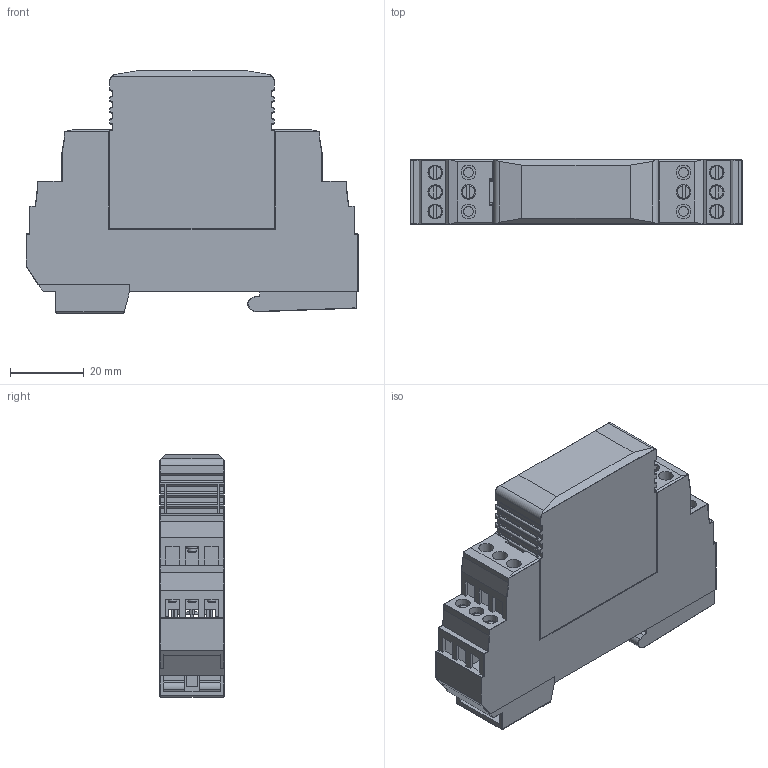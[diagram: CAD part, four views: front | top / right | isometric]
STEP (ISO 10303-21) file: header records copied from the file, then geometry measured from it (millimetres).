
FILE_DESCRIPTION(/* description */ (''),/* implementation_level */ '2;1');
FILE_NAME(/* name */ 'K:\PROJEKTY ROZPRACOVANÉ\MODELY DO KATALOGU\HDT\HDT1.stp',/* time_stamp */ '2019-11-20T11:49:27+01:00',/* author */ ('Jiri Valtr'),/* organization */ (''),/* preprocessor_version */ 'ST-DEVELOPER v18',/* originating_system */ 'Autodesk Inventor 2020',/* authorisation */ '');
FILE_SCHEMA (('AUTOMOTIVE_DESIGN { 1 0 10303 214 3 1 1 }'));
Length unit declared in the file: millimetre
Products named in the file (3): HDT; HDT_1; ŠROUB
Assembly tree (9 placements, depth 2):
  HDT
    HDT_1
    ŠROUB  x8
Bounding box: 90.15 x 17.5 x 65.85 mm (x, y, z)
Volume: 49221.7 mm3; surface area: 32427 mm2
Topology: 11 solids, 11 shells, 1113 faces, 2924 edges, 1842 vertices
Faces by surface type: plane 661, cylinder 338, torus 56, sphere 28, cone 24, bspline 6
Full cylindrical faces by diameter (mm): 2.3 x16, 2.6 x6, 3 x8, 3.8 x8, 4 x12, 6 x1
Entity records: 30779 total; most frequent: CARTESIAN_POINT 5584, ORIENTED_EDGE 5242, DIRECTION 5191, EDGE_CURVE 2621, LINE 1993, VECTOR 1993, VERTEX_POINT 1632, AXIS2_PLACEMENT_3D 1599
